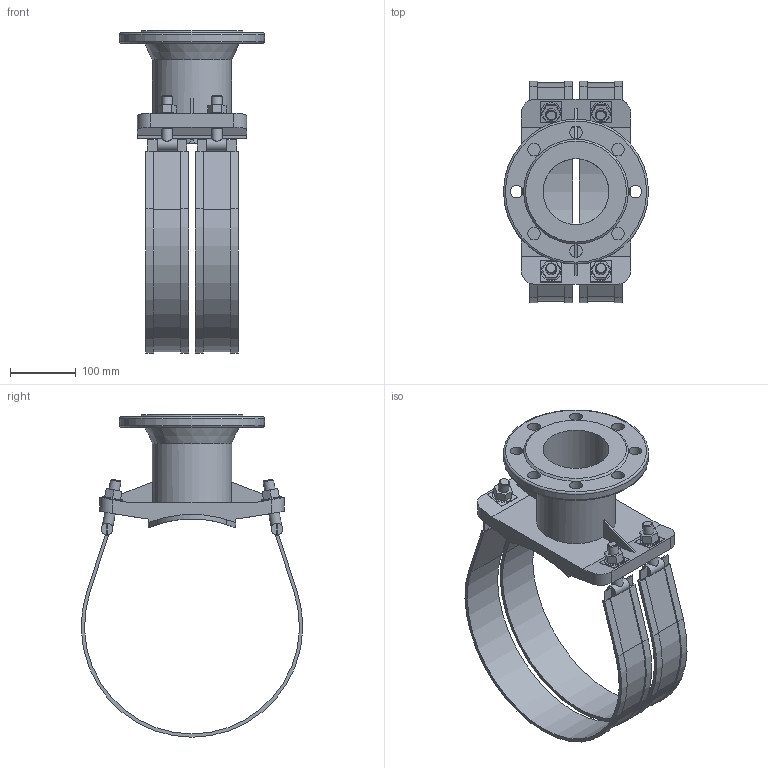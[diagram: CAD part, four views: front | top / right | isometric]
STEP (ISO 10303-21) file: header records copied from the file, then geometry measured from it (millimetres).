
FILE_DESCRIPTION( ( 'STEP AP203' ), '1' );
FILE_NAME( 'x:/temp/worker_3/temp/exporttempdir_1380_189_iclgV/format_1/5003944 3510 DN300 - DN1 100 - PN16 (400).stp', '2020-12-22T09:24:19', ( 'License CC BY-ND 4.0' ), ( 'CADENAS' ), ' ', 'PARTsolutions', ' ' );
FILE_SCHEMA( ( 'CONFIG_CONTROL_DESIGN' ) );
Length unit declared in the file: millimetre
Products named in the file (1): _5003944 3510 DN300 - DN1 100 - PN16 (400)
Bounding box: 220 x 335.84 x 489 mm (x, y, z)
Volume: 2309705.5 mm3; surface area: 526151.2 mm2
Topology: 1 solids, 1 shells, 206 faces, 526 edges, 353 vertices
Faces by surface type: plane 147, cylinder 51, cone 6, torus 2
Full cylindrical faces by diameter (mm): 16 x8, 17 x4, 19 x8, 29.75 x4, 100 x1, 120 x1, 220 x1
Entity records: 6784 total; most frequent: CARTESIAN_POINT 1854, DIRECTION 976, ORIENTED_EDGE 952, EDGE_CURVE 476, LINE 352, VECTOR 352, VERTEX_POINT 338, AXIS2_PLACEMENT_3D 312
